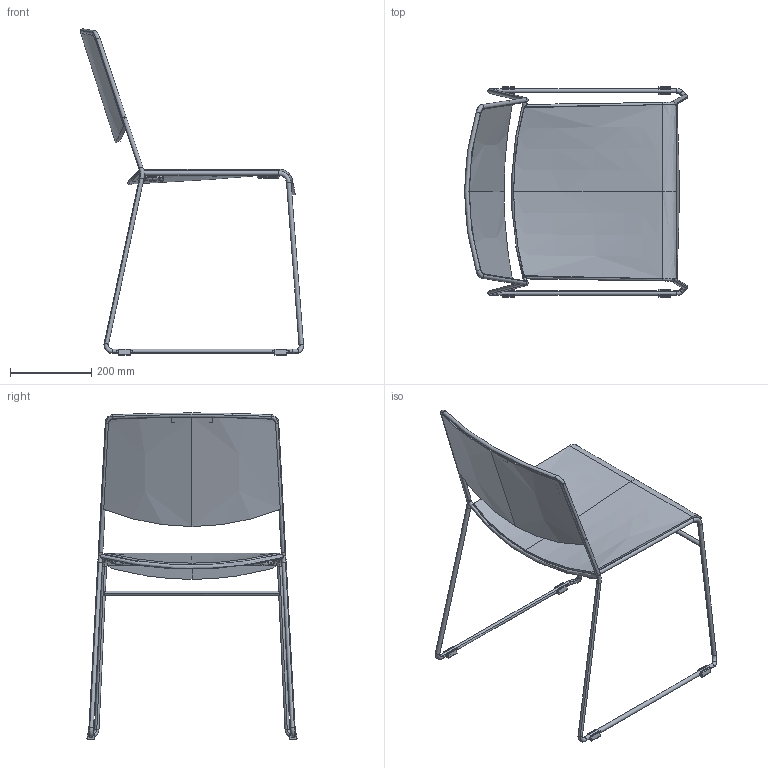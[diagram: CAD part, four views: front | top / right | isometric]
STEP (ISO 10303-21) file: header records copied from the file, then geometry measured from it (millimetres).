
FILE_DESCRIPTION((''),'2;1');
FILE_NAME('A2424_R04_SEDIA_VICTORIA_ASM','2024-01-08T14:53:43',('Activa'),(''),'CREO PARAMETRIC BY PTC INC, 2022073','CREO PARAMETRIC BY PTC INC, 2022073','');
FILE_SCHEMA(('AUTOMOTIVE_DESIGN { 1 0 10303 214 1 1 1 1 }'));
Length unit declared in the file: millimetre
Products named in the file (10): P9186_R04_SLITTA_VICTORIA; P9189_R04_SEDILE_VICTORIA; DVZ_M6_WOOD_INSERT; P9189_R04_SEDILE_VICTORIA_ASM; P9187_R05_SCHIENALE_VICTORIA; P9188_R03_PIEDINO_SLITTA_TUBO11; M4X20_HSCS_SCREW_UNI_5927; P11719_R05_DISTANZIALE_ALTA_IMP; M6X10_HSB_SCREW_UNI_7380; A2424_R04_SEDIA_VICTORIA_ASM
Assembly tree (22 placements, depth 3):
  A2424_R04_SEDIA_VICTORIA_ASM
    P9186_R04_SLITTA_VICTORIA
    P9189_R04_SEDILE_VICTORIA_ASM
      P9189_R04_SEDILE_VICTORIA
      DVZ_M6_WOOD_INSERT  x4
    P9187_R05_SCHIENALE_VICTORIA
    P9188_R03_PIEDINO_SLITTA_TUBO11  x4
    M4X20_HSCS_SCREW_UNI_5927  x2
    P11719_R05_DISTANZIALE_ALTA_IMP  x4
    M6X10_HSB_SCREW_UNI_7380  x4
Bounding box: 549.85 x 518 x 804 mm (x, y, z)
Volume: 4034354.9 mm3; surface area: 876536.7 mm2
Topology: 34 solids, 34 shells, 1105 faces, 2674 edges, 1670 vertices
Faces by surface type: plane 343, bspline 286, cylinder 239, cone 114, torus 81, extrusion 42
Entity records: 27043 total; most frequent: CARTESIAN_POINT 12295, ORIENTED_EDGE 2314, DIRECTION 1822, PRESENTATION_STYLE_ASSIGNMENT 1188, STYLED_ITEM 1178, CURVE_STYLE 1157, EDGE_CURVE 1157, VERTEX_POINT 721
